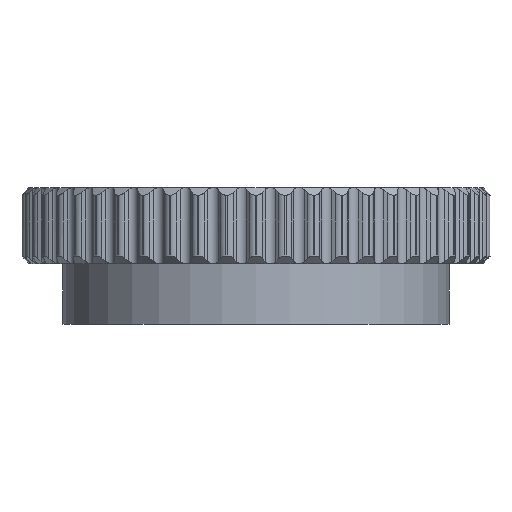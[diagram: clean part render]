
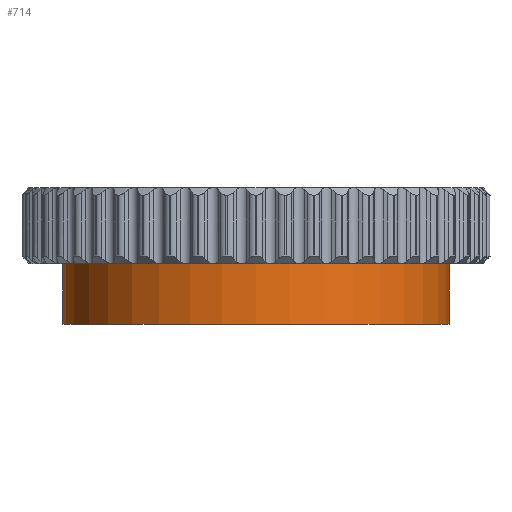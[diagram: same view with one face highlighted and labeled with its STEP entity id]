
A CAD part, front view. The second image highlights one B-rep face of the part: STEP entity #714.
In plain terms, the highlighted cylindrical face has radius 12.7 mm (diameter 25.4 mm), a full revolution.
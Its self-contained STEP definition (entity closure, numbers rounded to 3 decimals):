
#714 = ADVANCED_FACE( '', ( #1688, #1689 ), #1690, .T. );
#1688 = FACE_OUTER_BOUND( '', #2927, .T. );
#1689 = FACE_OUTER_BOUND( '', #2928, .T. );
#1690 = CYLINDRICAL_SURFACE( '', #2929, 12.7 );
#2927 = EDGE_LOOP( '', ( #5073 ) );
#2928 = EDGE_LOOP( '', ( #5074 ) );
#2929 = AXIS2_PLACEMENT_3D( '', #5075, #5076, #5077 );
#5073 = ORIENTED_EDGE( '', *, *, #8578, .F. );
#5074 = ORIENTED_EDGE( '', *, *, #8579, .F. );
#5075 = CARTESIAN_POINT( '', ( 0., 0., 4. ) );
#5076 = DIRECTION( '', ( 0., 0., 1. ) );
#5077 = DIRECTION( '', ( -1., 0., 0. ) );
#8578 = EDGE_CURVE( '', #10752, #10752, #10753, .F. );
#8579 = EDGE_CURVE( '', #10754, #10754, #10755, .T. );
#10752 = VERTEX_POINT( '', #14749 );
#10753 = CIRCLE( '', #14750, 12.7 );
#10754 = VERTEX_POINT( '', #14751 );
#10755 = CIRCLE( '', #14752, 12.7 );
#14749 = CARTESIAN_POINT( '', ( -12.7, 0., 4. ) );
#14750 = AXIS2_PLACEMENT_3D( '', #17509, #17510, #17511 );
#14751 = CARTESIAN_POINT( '', ( 12.7, 0., 0. ) );
#14752 = AXIS2_PLACEMENT_3D( '', #17512, #17513, #17514 );
#17509 = CARTESIAN_POINT( '', ( 0., 0., 4. ) );
#17510 = DIRECTION( '', ( 0., 0., -1. ) );
#17511 = DIRECTION( '', ( -1., 0., 0. ) );
#17512 = CARTESIAN_POINT( '', ( 0., 0., 0. ) );
#17513 = DIRECTION( '', ( 0., 0., -1. ) );
#17514 = DIRECTION( '', ( 1., 0., 0. ) );
